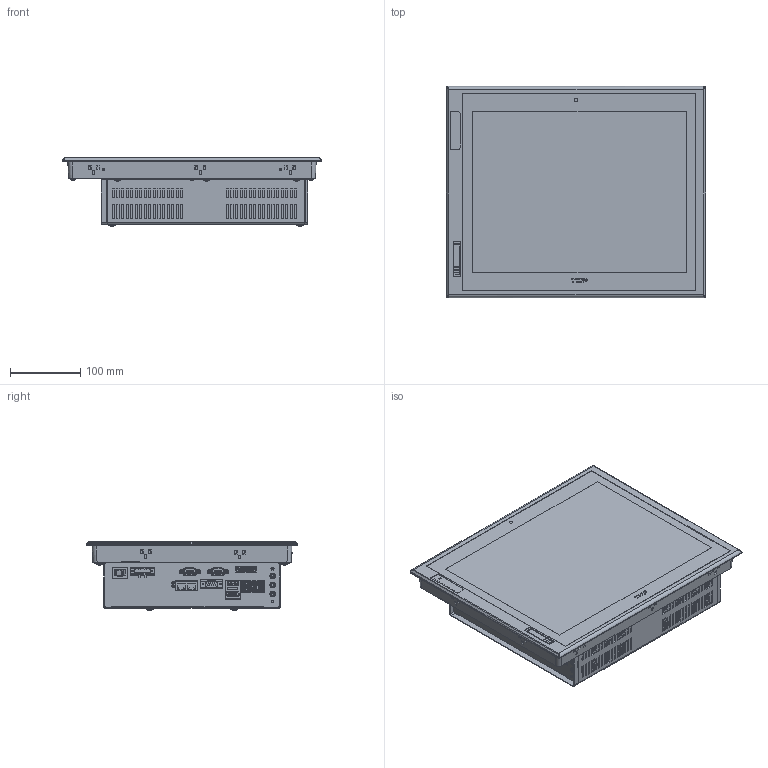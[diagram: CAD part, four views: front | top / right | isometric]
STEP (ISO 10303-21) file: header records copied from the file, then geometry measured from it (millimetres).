
FILE_DESCRIPTION((''),'2;1');
FILE_NAME('3D_OUT_PCVIEW1530','2025-05-14T11:02:07',('Youngmin'),(''),'CREO PARAMETRIC BY PTC INC, 2024153','CREO PARAMETRIC BY PTC INC, 2024153','');
FILE_SCHEMA(('CONFIG_CONTROL_DESIGN'));
Products named in the file (1): 3D_OUT_PCVIEW1530
Bounding box: 370 x 301 x 98.05 mm (x, y, z)
Volume: 7613893.7 mm3; surface area: 408657.6 mm2
Topology: 1 solids, 46 shells, 6319 faces, 16813 edges, 10884 vertices
Faces by surface type: plane 4558, cylinder 1269, torus 206, bspline 162, cone 57, sphere 52, extrusion 15
Entity records: 216254 total; most frequent: CARTESIAN_POINT 58917, ORIENTED_EDGE 33618, DIRECTION 30742, EDGE_CURVE 16809, VECTOR 12830, LINE 12815, VERTEX_POINT 10884, AXIS2_PLACEMENT_3D 8956
